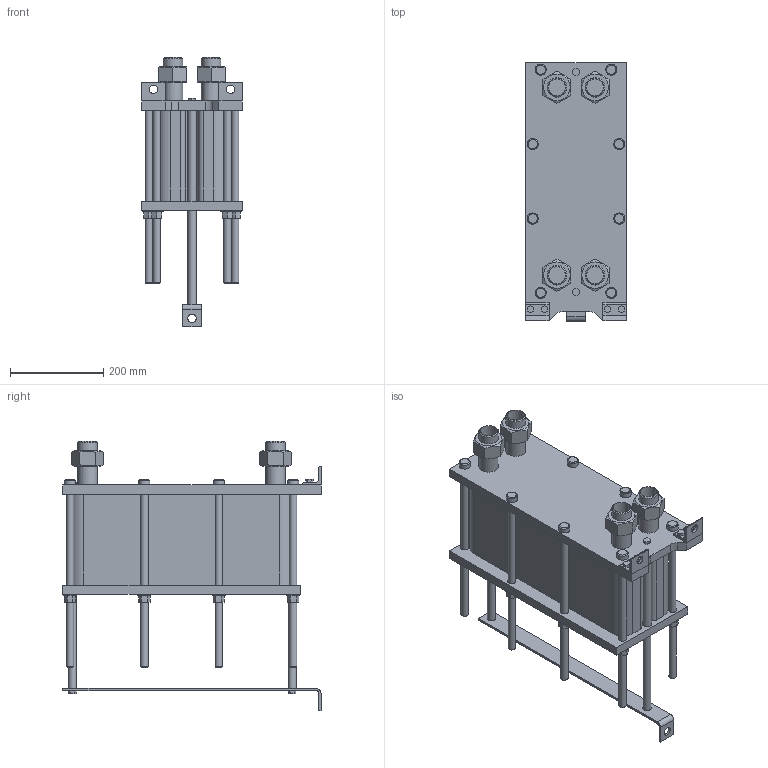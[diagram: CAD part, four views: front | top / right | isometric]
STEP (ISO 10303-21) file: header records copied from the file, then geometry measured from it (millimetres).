
FILE_DESCRIPTION(/* description */ (''),/* implementation_level */ '2;1');
FILE_NAME(/* name */ 'C:\Users\zhuro\Desktop\ENCO\TO\ЭН-004\ЭН-0,5-004-63-1.stp',/* time_stamp */ '2022-06-06T10:48:24+03:00',/* author */ ('zhuro'),/* organization */ (''),/* preprocessor_version */ 'ST-DEVELOPER v18.1',/* originating_system */ 'Autodesk Inventor 2022',/* authorisation */ '');
FILE_SCHEMA (('AUTOMOTIVE_DESIGN { 1 0 10303 214 3 1 1 }'));
Length unit declared in the file: millimetre
Products named in the file (1): ЭН-0,5-004-63-1
Bounding box: 216 x 555 x 579.4 mm (x, y, z)
Volume: 20271391 mm3; surface area: 1381760.8 mm2
Topology: 40 solids, 40 shells, 403 faces, 865 edges, 574 vertices
Faces by surface type: plane 272, cylinder 103, cone 28
Full cylindrical faces by diameter (mm): 10 x4, 16 x16, 18 x29, 20 x2, 24 x8, 28 x8, 36.3 x5, 42.3 x9
Entity records: 11137 total; most frequent: CARTESIAN_POINT 1939, DIRECTION 1879, ORIENTED_EDGE 1730, EDGE_CURVE 865, AXIS2_PLACEMENT_3D 658, VERTEX_POINT 574, LINE 563, VECTOR 563
